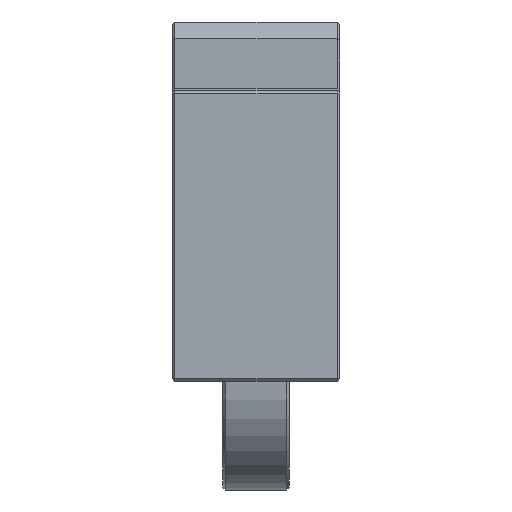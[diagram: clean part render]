
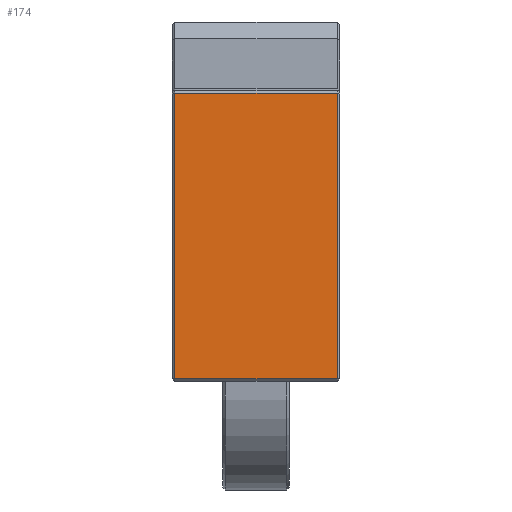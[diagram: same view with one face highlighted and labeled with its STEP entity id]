
A CAD part, left-side view. The second image highlights one B-rep face of the part: STEP entity #174.
In plain terms, the highlighted planar face has unit normal (-1, 0, 0).
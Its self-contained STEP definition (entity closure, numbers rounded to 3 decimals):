
#174 = ADVANCED_FACE( '', ( #591 ), #592, .T. );
#591 = FACE_OUTER_BOUND( '', #1474, .T. );
#592 = PLANE( '', #1475 );
#1474 = EDGE_LOOP( '', ( #2503, #2504, #2505, #2506 ) );
#1475 = AXIS2_PLACEMENT_3D( '', #2507, #2508, #2509 );
#2503 = ORIENTED_EDGE( '', *, *, #5792, .T. );
#2504 = ORIENTED_EDGE( '', *, *, #5793, .T. );
#2505 = ORIENTED_EDGE( '', *, *, #5794, .T. );
#2506 = ORIENTED_EDGE( '', *, *, #5795, .T. );
#2507 = CARTESIAN_POINT( '', ( -30., -10., 0. ) );
#2508 = DIRECTION( '', ( -1., 0., 0. ) );
#2509 = DIRECTION( '', ( 0., 0., 1. ) );
#5792 = EDGE_CURVE( '', #6993, #6994, #6995, .T. );
#5793 = EDGE_CURVE( '', #6994, #6996, #6997, .T. );
#5794 = EDGE_CURVE( '', #6996, #6998, #6999, .T. );
#5795 = EDGE_CURVE( '', #6998, #6993, #7000, .T. );
#6993 = VERTEX_POINT( '', #8817 );
#6994 = VERTEX_POINT( '', #8818 );
#6995 = LINE( '', #8819, #8820 );
#6996 = VERTEX_POINT( '', #8821 );
#6997 = LINE( '', #8822, #8823 );
#6998 = VERTEX_POINT( '', #8824 );
#6999 = LINE( '', #8825, #8826 );
#7000 = LINE( '', #8827, #8828 );
#8817 = CARTESIAN_POINT( '', ( -30., -9.7, 34.5 ) );
#8818 = CARTESIAN_POINT( '', ( -30., 9.7, 34.5 ) );
#8819 = CARTESIAN_POINT( '', ( -30., -10., 34.5 ) );
#8820 = VECTOR( '', #11684, 1000. );
#8821 = CARTESIAN_POINT( '', ( -30., 9.7, 0.3 ) );
#8822 = CARTESIAN_POINT( '', ( -30., 9.7, 0. ) );
#8823 = VECTOR( '', #11685, 1000. );
#8824 = CARTESIAN_POINT( '', ( -30., -9.7, 0.3 ) );
#8825 = CARTESIAN_POINT( '', ( -30., -10., 0.3 ) );
#8826 = VECTOR( '', #11686, 1000. );
#8827 = CARTESIAN_POINT( '', ( -30., -9.7, 34.5 ) );
#8828 = VECTOR( '', #11687, 1000. );
#11684 = DIRECTION( '', ( 0., 1., 0. ) );
#11685 = DIRECTION( '', ( 0., 0., -1. ) );
#11686 = DIRECTION( '', ( 0., -1., 0. ) );
#11687 = DIRECTION( '', ( 0., 0., 1. ) );
